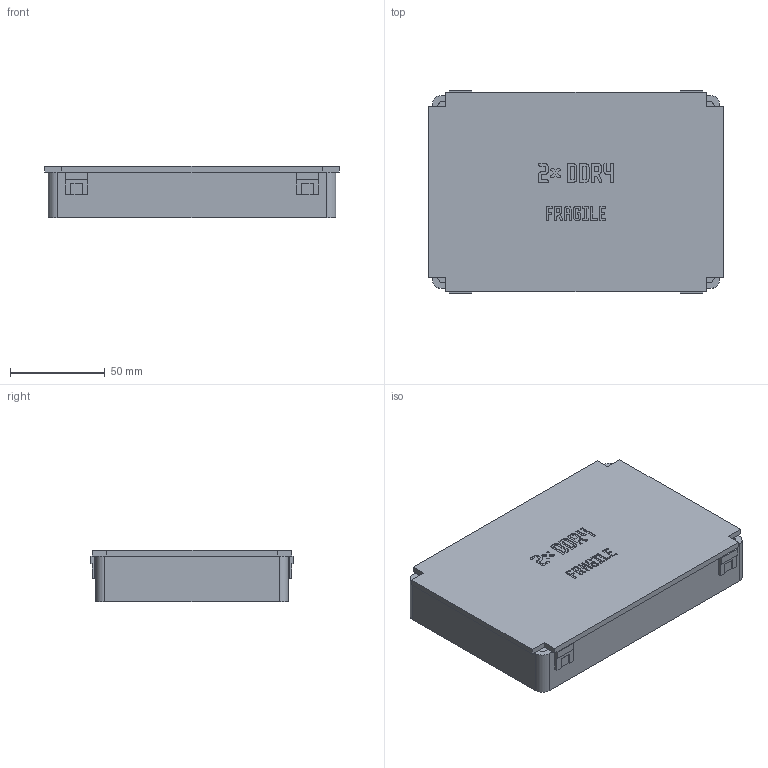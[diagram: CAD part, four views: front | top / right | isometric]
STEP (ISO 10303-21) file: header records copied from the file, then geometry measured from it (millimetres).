
FILE_DESCRIPTION(('Open CASCADE Model'),'2;1');
FILE_NAME('Open CASCADE Shape Model','2026-11-03T16:15:24',('Author'),( 'Open CASCADE'),'Open CASCADE STEP processor 8.0','build123d', 'Unknown');
FILE_SCHEMA(('AUTOMOTIVE_DESIGN { 1 0 10303 214 1 1 1 1 }'));
Products named in the file (1): COMPOUND
Bounding box: 155.6 x 107 x 27 mm (x, y, z)
Volume: 171409.7 mm3; surface area: 93400.6 mm2
Topology: 2 solids, 2 shells, 1298 faces, 3790 edges, 2524 vertices
Faces by surface type: plane 1286, cylinder 12
Entity records: 88906 total; most frequent: CARTESIAN_POINT 17835, DIRECTION 11470, LINE 8824, VECTOR 8824, ORIENTED_EDGE 7580, PCURVE 7580, DEFINITIONAL_REPRESENTATION 7580, EDGE_CURVE 3790
